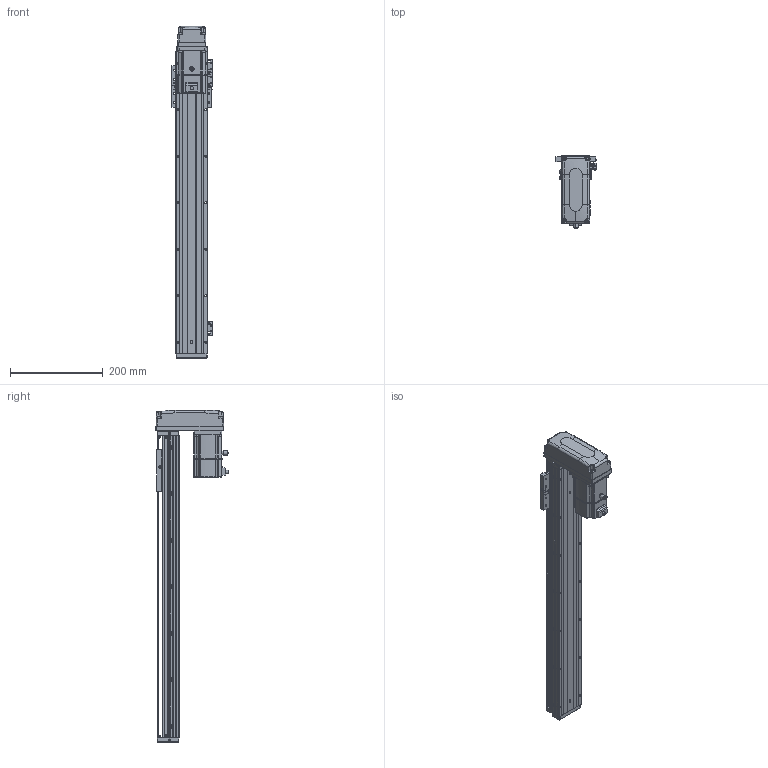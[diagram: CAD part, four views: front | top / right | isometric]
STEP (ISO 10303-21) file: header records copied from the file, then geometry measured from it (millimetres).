
FILE_DESCRIPTION (( 'STEP AP203' ), '1' );
FILE_NAME ('KTHAL60-500-BM-M20-C4L.step', '2022-12-16T02:10:47', ( '微软用户' ), ( '微软中国' ), 'SwSTEP 2.0', 'SolidWorks 2020', '' );
FILE_SCHEMA (( 'CONFIG_CONTROL_DESIGN' ));
Length unit declared in the file: millimetre
Products named in the file (17): EE_SX911P_R; _X2_4E0983F1_X0_200W_1; KTHA60-001_650; CTHA60-017; CTHA60-015-4_CTHA60-015-4; KTHLA60-002; CTHA60-021; GTH80-026; KTHA60-004; GBT 70.1-M4×16; KTHAL60-500-BM-M20-C4L; KTHA60-005; GBT77-2000M3-3; GB¨uT 70.2-M3¡Á5_M3¡Á6; GBT 70.1-M3℅6; GBT 70.3-M3℅6; CTHA60-016
Assembly tree (45 placements, depth 2):
  KTHAL60-500-BM-M20-C4L
    KTHA60-001_650
    KTHLA60-002
    KTHA60-004
    KTHA60-005
    GB¨uT 70.2-M3¡Á5_M3¡Á6  x5
    GBT 70.3-M3℅6  x4
    EE_SX911P_R  x3
    CTHA60-017  x3
    CTHA60-021  x2
    GBT 70.1-M4×16  x8
    GBT77-2000M3-3  x6
    GBT 70.1-M3℅6  x6
    CTHA60-016
    _X2_4E0983F1_X0_200W_1
    CTHA60-015-4_CTHA60-015-4
    GTH80-026
Bounding box: 87.82 x 155.2 x 714 mm (x, y, z)
Volume: 1923555.9 mm3; surface area: 411386.7 mm2
Topology: 48 solids, 48 shells, 2351 faces, 5604 edges, 3445 vertices
Faces by surface type: plane 1259, cylinder 623, cone 270, bspline 103, torus 82, sphere 14
Entity records: 45893 total; most frequent: CARTESIAN_POINT 10266, DIRECTION 6921, ORIENTED_EDGE 6832, EDGE_CURVE 3416, AXIS2_PLACEMENT_3D 2384, VECTOR 2153, LINE 2153, VERTEX_POINT 2129
